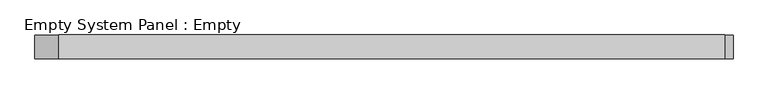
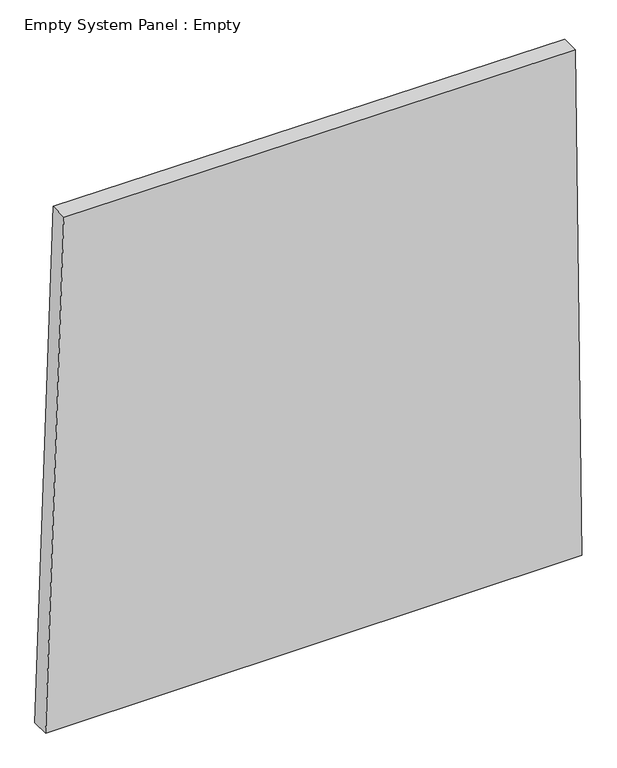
"""IFC4 building model written with IfcOpenShell, lengths in millimetres: plate geometry, Empty System Panel : Empty."""

from ifc_helpers import new_model, si_unit, frame, origin, place, context, project, spatial, polyline, outline, extrude, source, transform, mapped, element, save


def empty_system_panel_empty_91059b44(model_context):
    return source(origin(), model_context, "Body", "SweptSolid", [
        extrude(outline(polyline([(0.0, -1485.0548808), (0.0, 1485.0548808), (2973.5036611, 1449.0360085), (2984.9640959, -1383.4094385), (0.0, -1485.0548808)])), frame((0.0, -50.8, 0.0), z_axis=(0.0, 1.0, 0.0), x_axis=(0.0, 0.0, 1.0)), (0.0, 0.0, 1.0), 101.6),
    ])


if __name__ == "__main__":
    model = new_model("IFC4")
    model_context = context("Model", 3, world=origin())
    ifc_project = project(units=[si_unit("LENGTHUNIT", "METRE", prefix="MILLI")], contexts=[model_context])
    site = spatial("IfcSite", under=ifc_project)
    building = spatial("IfcBuilding", under=site)
    placement = place(None, origin())
    empty_system_panel_empty_shape = empty_system_panel_empty_91059b44(model_context)
    element("IfcPlate", 1, ObjectType="Empty System Panel : Empty", at=placement, inside=building, context=model_context, shape_type="MappedRepresentation", body=[
        mapped(empty_system_panel_empty_shape, transform((0.0, 0.0, 0.0), x_axis=(1.0, 0.0, 0.0), y_axis=(0.0, 1.0, 0.0), z_axis=(0.0, 0.0, 1.0))),
    ])
    save(model, "model.ifc")
